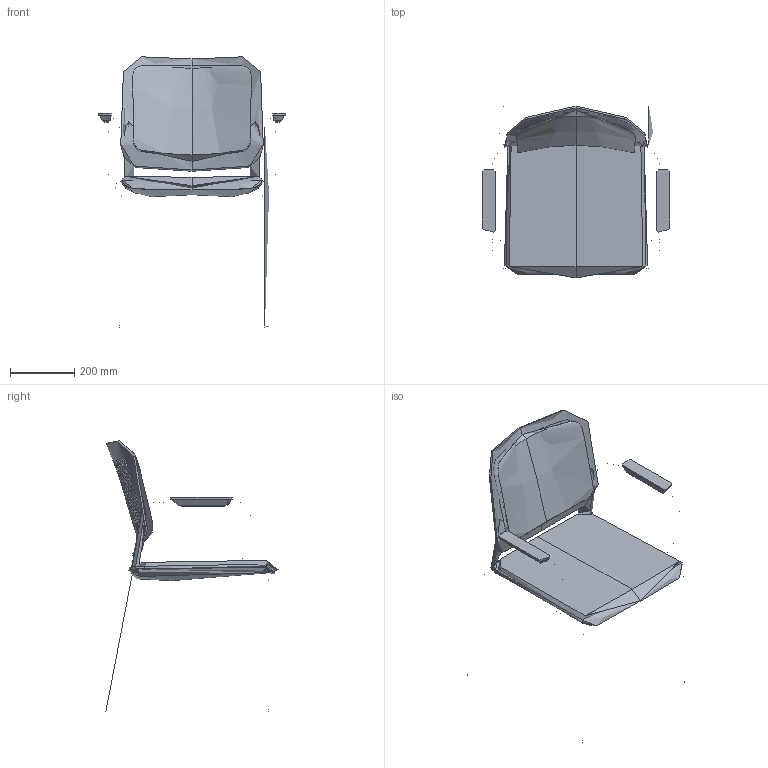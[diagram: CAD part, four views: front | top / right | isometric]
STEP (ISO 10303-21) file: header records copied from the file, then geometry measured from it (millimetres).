
FILE_DESCRIPTION(/* description */ (''),/* implementation_level */ '2;1');
FILE_NAME(/* name */ 'Time 172-B',/* time_stamp */ '2019-11-22T22:56:05+01:00',/* author */ (''),/* organization */ (''),/* preprocessor_version */ 'ST-DEVELOPER v16.5',/* originating_system */ '',/* authorisation */ '');
FILE_SCHEMA (('AUTOMOTIVE_DESIGN'));
Length unit declared in the file: millimetre
Products named in the file (1): Document
Bounding box: 582 x 534.87 x 840.75 mm (x, y, z)
Volume: 4791816.5 mm3; surface area: 1969011.3 mm2
Topology: 3 solids, 15 shells, 1146 faces, 3357 edges, 2199 vertices
Faces by surface type: bspline 646, plane 500
Entity records: 64994 total; most frequent: CARTESIAN_POINT 43509, ORIENTED_EDGE 6662, EDGE_CURVE 3354, B_SPLINE_CURVE_WITH_KNOTS 3227, VERTEX_POINT 2197, EDGE_LOOP 1596, ADVANCED_FACE 1146, FACE_OUTER_BOUND 1146
